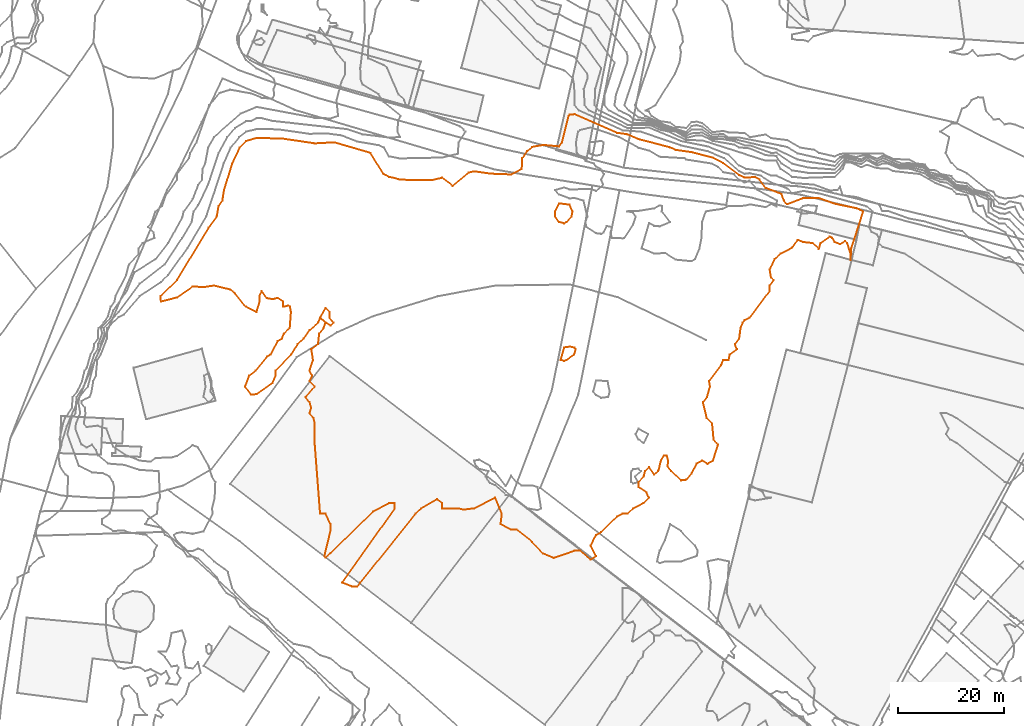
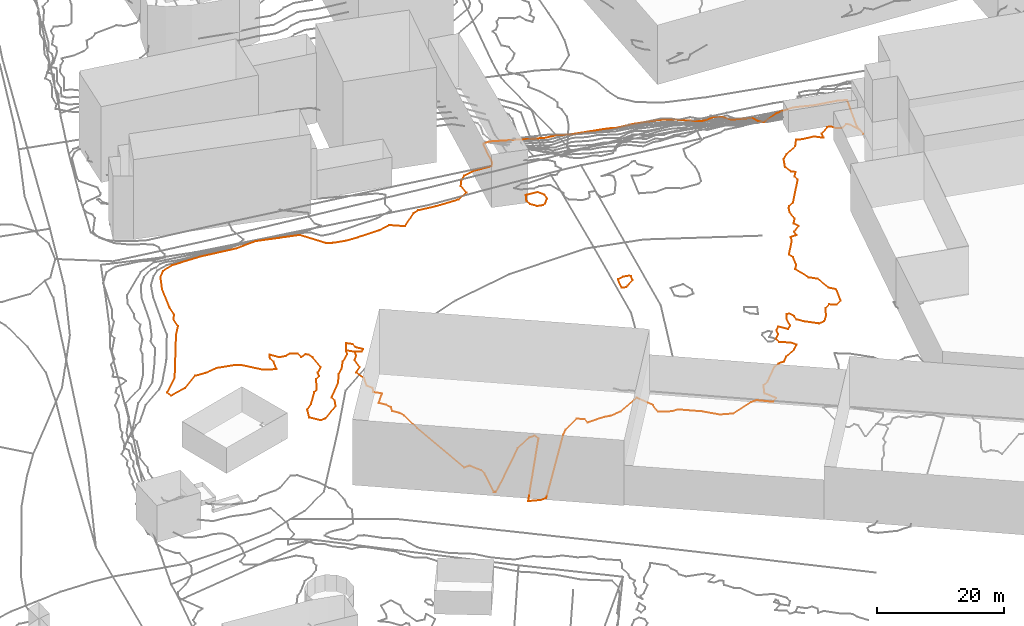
# Not in any storey, part 218 of 419: 4 proxies.
"""IFC2X3 model written with IfcOpenShell, lengths in metres."""

from ifc_helpers import new_model, entity, si_unit, frame, origin_with_axes, place, context, subcontext, project, element, save


model = new_model("IFC2X3")

# Units and contexts
model_context = context("Model", 3, precision=1e-05, world=origin_with_axes())
body_context = subcontext(model_context, "Body", "Model", "MODEL_VIEW")
ifc_project = project(units=[si_unit("AREAUNIT", "SQUARE_METRE"), si_unit("LENGTHUNIT", "METRE")], contexts=[model_context])

# Proxies
proxy_1_placement = place(None, frame((810.3419965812, 350.8976909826, 82.0), z_axis=(0.0, 0.0, 1.0), x_axis=(1.0, 0.0, 0.0)))
element("IfcBuildingElementProxy", 1, at=proxy_1_placement, Name="Contour 82.0 m", ObjectType="NOTDEFINED", context=body_context, shape_type="GeometricCurveSet", body=[
    entity("IfcGeometricCurveSet", [entity("IfcPolyline", [entity("IfcCartesianPoint", [2.2045945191, -2.0, 0.0]), entity("IfcCartesianPoint", [1.7500238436, -2.2631705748, 0.0]), entity("IfcCartesianPoint", [0.7500238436, -2.0000052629, 0.0]), entity("IfcCartesianPoint", [0.083357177, -1.0, 0.0]), entity("IfcCartesianPoint", [0.0, 0.0, 0.0]), entity("IfcCartesianPoint", [0.7500238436, 1.5000250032, 0.0]), entity("IfcCartesianPoint", [2.7500238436, 1.2500476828, 0.0]), entity("IfcCartesianPoint", [3.3333412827, 0.0, 0.0]), entity("IfcCartesianPoint", [3.1346482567, -1.0, 0.0]), entity("IfcCartesianPoint", [2.2045945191, -2.0, 0.0])])]),
])
proxy_2_placement = place(None, frame((766.0920537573, 330.8976909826, 81.0), z_axis=(0.0, 0.0, 1.0), x_axis=(1.0, 0.0, 0.0)))
element("IfcBuildingElementProxy", 2, at=proxy_2_placement, Name="Contour 81.0 m", ObjectType="NOTDEFINED", context=body_context, shape_type="GeometricCurveSet", body=[
    entity("IfcGeometricCurveSet", [entity("IfcPolyline", [entity("IfcCartesianPoint", [1.9999666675, -1.4999500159, 0.0]), entity("IfcCartesianPoint", [2.4999166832, -1.0, 0.0]), entity("IfcCartesianPoint", [1.7499189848, 0.0, 0.0]), entity("IfcCartesianPoint", [1.7499189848, 1.0, 0.0]), entity("IfcCartesianPoint", [0.9999666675, 1.7499523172, 0.0]), entity("IfcCartesianPoint", [0.0, 0.0, 0.0]), entity("IfcCartesianPoint", [0.9999666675, -0.999966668, 0.0]), entity("IfcCartesianPoint", [1.9999666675, -1.4999500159, 0.0])])]),
])
proxy_3_placement = place(None, frame((811.4253113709, 322.8976909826, 82.0), z_axis=(0.0, 0.0, 1.0), x_axis=(1.0, 0.0, 0.0)))
element("IfcBuildingElementProxy", 3, at=proxy_3_placement, Name="Contour 82.0 m", ObjectType="NOTDEFINED", context=body_context, shape_type="GeometricCurveSet", body=[
    entity("IfcGeometricCurveSet", [entity("IfcPolyline", [entity("IfcCartesianPoint", [1.1111440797, 0.0, 0.0]), entity("IfcCartesianPoint", [0.6667090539, -0.2105284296, 0.0]), entity("IfcCartesianPoint", [0.0, 0.0, 0.0]), entity("IfcCartesianPoint", [0.6667090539, 2.3334181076, 0.0]), entity("IfcCartesianPoint", [1.6667090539, 2.5000124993, 0.0]), entity("IfcCartesianPoint", [2.6667090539, 2.285667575, 0.0]), entity("IfcCartesianPoint", [2.8485083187, 2.0, 0.0]), entity("IfcCartesianPoint", [2.5416852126, 1.0, 0.0]), entity("IfcCartesianPoint", [1.1111440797, 0.0, 0.0])])]),
])
proxy_4_placement = place(None, frame((735.9809124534, 334.8976909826, 81.0), z_axis=(0.0, 0.0, 1.0), x_axis=(1.0, 0.0, 0.0)))
element("IfcBuildingElementProxy", 4, at=proxy_4_placement, Name="Contour 81.0 m", ObjectType="NOTDEFINED", context=body_context, shape_type="GeometricCurveSet", body=[
    entity("IfcGeometricCurveSet", [entity("IfcPolyline", [entity("IfcCartesianPoint", [37.6825521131, -54.0, 0.0]), entity("IfcCartesianPoint", [37.1111079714, -54.7058744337, 0.0]), entity("IfcCartesianPoint", [36.1111079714, -54.7241324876, 0.0]), entity("IfcCartesianPoint", [34.2539599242, -54.0, 0.0]), entity("IfcCartesianPoint", [44.1880445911, -40.0, 0.0]), entity("IfcCartesianPoint", [44.1111079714, -39.0000999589, 0.0]), entity("IfcCartesianPoint", [43.1111079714, -39.0000500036, 0.0]), entity("IfcCartesianPoint", [40.1111079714, -40.60003052, 0.0]), entity("IfcCartesianPoint", [32.1111079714, -48.39996948, 0.0]), entity("IfcCartesianPoint", [31.1111079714, -49.2500476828, 0.0]), entity("IfcCartesianPoint", [30.9110774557, -49.0, 0.0]), entity("IfcCartesianPoint", [32.1110746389, -44.0, 0.0]), entity("IfcCartesianPoint", [32.111057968, -43.0, 0.0]), entity("IfcCartesianPoint", [31.1111079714, -41.0000500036, 0.0]), entity("IfcCartesianPoint", [30.1110829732, -41.0, 0.0]), entity("IfcCartesianPoint", [29.1110829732, -28.0, 0.0]), entity("IfcCartesianPoint", [29.1110746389, -24.0, 0.0]), entity("IfcCartesianPoint", [28.8610602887, -23.0, 0.0]), entity("IfcCartesianPoint", [28.1110746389, -22.0, 0.0]), entity("IfcCartesianPoint", [28.4445260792, -21.0, 0.0]), entity("IfcCartesianPoint", [28.1110746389, -20.0, 0.0]), entity("IfcCartesianPoint", [27.3611556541, -19.0, 0.0]), entity("IfcCartesianPoint", [29.1110746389, -17.0, 0.0]), entity("IfcCartesianPoint", [28.1110829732, -16.0, 0.0]), entity("IfcCartesianPoint", [28.6110829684, -15.0, 0.0]), entity("IfcCartesianPoint", [28.1110829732, -14.0, 0.0]), entity("IfcCartesianPoint", [28.7778170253, -12.0, 0.0]), entity("IfcCartesianPoint", [28.4445260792, -10.0, 0.0]), entity("IfcCartesianPoint", [29.7111384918, -9.0, 0.0]), entity("IfcCartesianPoint", [29.9444201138, -7.0, 0.0]), entity("IfcCartesianPoint", [30.7776898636, -6.0, 0.0]), entity("IfcCartesianPoint", [31.1110829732, -5.0, 0.0]), entity("IfcCartesianPoint", [30.1111079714, -4.0000249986, 0.0]), entity("IfcCartesianPoint", [29.7474653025, -5.0, 0.0]), entity("IfcCartesianPoint", [28.1111079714, -6.4285558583, 0.0]), entity("IfcCartesianPoint", [27.0000156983, -8.0, 0.0]), entity("IfcCartesianPoint", [25.9005795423, -9.0, 0.0]), entity("IfcCartesianPoint", [24.649578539, -11.0, 0.0]), entity("IfcCartesianPoint", [21.7020217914, -14.0, 0.0]), entity("IfcCartesianPoint", [21.7111079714, -15.0, 0.0]), entity("IfcCartesianPoint", [21.1111079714, -16.333333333, 0.0]), entity("IfcCartesianPoint", [18.1111079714, -18.4615294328, 0.0]), entity("IfcCartesianPoint", [17.1111079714, -18.5714441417, 0.0]), entity("IfcCartesianPoint", [15.953221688, -17.0, 0.0]), entity("IfcCartesianPoint", [16.7361055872, -15.0, 0.0]), entity("IfcCartesianPoint", [17.9806760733, -14.0, 0.0]), entity("IfcCartesianPoint", [20.1111079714, -11.3636426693, 0.0]), entity("IfcCartesianPoint", [20.777774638, -11.0, 0.0]), entity("IfcCartesianPoint", [22.1111079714, -8.4706040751, 0.0]), entity("IfcCartesianPoint", [22.9111384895, -8.0, 0.0]), entity("IfcCartesianPoint", [23.2777675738, -7.0, 0.0]), entity("IfcCartesianPoint", [24.3838226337, -6.0, 0.0]), entity("IfcCartesianPoint", [24.611095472, -3.0, 0.0]), entity("IfcCartesianPoint", [24.4445260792, -2.0, 0.0]), entity("IfcCartesianPoint", [24.1111079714, -1.7499523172, 0.0]), entity("IfcCartesianPoint", [23.111057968, -2.0, 0.0]), entity("IfcCartesianPoint", [23.111057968, -1.0, 0.0]), entity("IfcCartesianPoint", [22.1111079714, -0.3334181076, 0.0]), entity("IfcCartesianPoint", [21.1111079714, -0.5714441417, 0.0]), entity("IfcCartesianPoint", [20.1111079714, -0.39996948, 0.0]), entity("IfcCartesianPoint", [19.1111079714, 0.9999833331, 0.0]), entity("IfcCartesianPoint", [18.649578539, 0.0, 0.0]), entity("IfcCartesianPoint", [18.6944254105, -1.0, 0.0]), entity("IfcCartesianPoint", [18.1110746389, -3.0, 0.0]), entity("IfcCartesianPoint", [16.1111079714, -2.0000199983, 0.0]), entity("IfcCartesianPoint", [14.1111079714, 0.4999749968, 0.0]), entity("IfcCartesianPoint", [13.1111079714, 1.2500476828, 0.0]), entity("IfcCartesianPoint", [10.1111079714, 1.9999888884, 0.0]), entity("IfcCartesianPoint", [8.1111079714, 1.7000076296, 0.0]), entity("IfcCartesianPoint", [6.1111079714, 1.8333121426, 0.0]), entity("IfcCartesianPoint", [3.1111079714, -0.2307647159, 0.0]), entity("IfcCartesianPoint", [0.1110080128, -1.0, 0.0]), entity("IfcCartesianPoint", [0.0, 0.0, 0.0]), entity("IfcCartesianPoint", [3.1111047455, 3.0, 0.0]), entity("IfcCartesianPoint", [9.1111079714, 12.9736789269, 0.0]), entity("IfcCartesianPoint", [10.6328434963, 15.0, 0.0]), entity("IfcCartesianPoint", [10.9493424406, 17.0, 0.0]), entity("IfcCartesianPoint", [11.6752145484, 18.0, 0.0]), entity("IfcCartesianPoint", [11.9904192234, 20.0, 0.0]), entity("IfcCartesianPoint", [13.5277781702, 25.0, 0.0]), entity("IfcCartesianPoint", [14.9559403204, 28.0, 0.0]), entity("IfcCartesianPoint", [16.1111079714, 29.2142886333, 0.0]), entity("IfcCartesianPoint", [18.1111079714, 29.839291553, 0.0]), entity("IfcCartesianPoint", [23.1111079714, 29.6842098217, 0.0]), entity("IfcCartesianPoint", [29.1111079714, 28.792451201, 0.0]), entity("IfcCartesianPoint", [32.777774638, 29.0, 0.0]), entity("IfcCartesianPoint", [39.6111129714, 27.0, 0.0]), entity("IfcCartesianPoint", [42.0710994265, 23.0, 0.0]), entity("IfcCartesianPoint", [43.1111079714, 22.5000041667, 0.0]), entity("IfcCartesianPoint", [45.1111079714, 22.0000045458, 0.0]), entity("IfcCartesianPoint", [47.1111079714, 21.8800048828, 0.0]), entity("IfcCartesianPoint", [51.1111079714, 21.875003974, 0.0]), entity("IfcCartesianPoint", [53.1111079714, 22.321416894, 0.0]), entity("IfcCartesianPoint", [55.1111079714, 20.8000101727, 0.0]), entity("IfcCartesianPoint", [58.1111079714, 23.2962983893, 0.0]), entity("IfcCartesianPoint", [59.1111079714, 23.5348911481, 0.0]), entity("IfcCartesianPoint", [62.1111079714, 23.0952406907, 0.0]), entity("IfcCartesianPoint", [66.1111079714, 22.9444526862, 0.0]), entity("IfcCartesianPoint", [68.1110913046, 24.0, 0.0]), entity("IfcCartesianPoint", [68.2222379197, 26.0, 0.0]), entity("IfcCartesianPoint", [69.1111079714, 27.3332909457, 0.0]), entity("IfcCartesianPoint", [70.1111079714, 28.1428882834, 0.0]), entity("IfcCartesianPoint", [72.1111079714, 28.5000050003, 0.0]), entity("IfcCartesianPoint", [75.1111079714, 28.2381021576, 0.0]), entity("IfcCartesianPoint", [75.6825365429, 29.0, 0.0]), entity("IfcCartesianPoint", [76.9682560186, 34.0, 0.0]), entity("IfcCartesianPoint", [77.1111079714, 34.2307647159, 0.0]), entity("IfcCartesianPoint", [78.1111079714, 34.2962945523, 0.0]), entity("IfcCartesianPoint", [86.1111079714, 30.7902077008, 0.0]), entity("IfcCartesianPoint", [88.1111079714, 30.4886382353, 0.0]), entity("IfcCartesianPoint", [90.1111079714, 29.5873013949, 0.0]), entity("IfcCartesianPoint", [96.1111079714, 28.0588213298, 0.0]), entity("IfcCartesianPoint", [97.1111079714, 27.5698909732, 0.0]), entity("IfcCartesianPoint", [100.1111079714, 27.1351364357, 0.0]), entity("IfcCartesianPoint", [104.1111079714, 26.1127829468, 0.0]), entity("IfcCartesianPoint", [106.1111079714, 25.0816342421, 0.0]), entity("IfcCartesianPoint", [109.1111079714, 22.8166663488, 0.0]), entity("IfcCartesianPoint", [110.1111079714, 22.3774827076, 0.0]), entity("IfcCartesianPoint", [112.1111079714, 22.4293787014, 0.0]), entity("IfcCartesianPoint", [112.9111063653, 22.0, 0.0]), entity("IfcCartesianPoint", [114.1111079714, 20.4084525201, 0.0]), entity("IfcCartesianPoint", [117.1111079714, 19.2571444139, 0.0]), entity("IfcCartesianPoint", [117.5253922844, 18.0, 0.0]), entity("IfcCartesianPoint", [118.1111079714, 17.3387067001, 0.0]), entity("IfcCartesianPoint", [121.1111079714, 18.4788686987, 0.0]), entity("IfcCartesianPoint", [124.1111079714, 18.5087738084, 0.0]), entity("IfcCartesianPoint", [127.1111079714, 17.4166686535, 0.0]), entity("IfcCartesianPoint", [131.1111079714, 16.5921055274, 0.0]), entity("IfcCartesianPoint", [132.4982043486, 16.0, 0.0]), entity("IfcCartesianPoint", [130.2222002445, 9.0, 0.0]), entity("IfcCartesianPoint", [130.1111079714, 6.8333121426, 0.0]), entity("IfcCartesianPoint", [130.111095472, 8.0, 0.0]), entity("IfcCartesianPoint", [129.4861020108, 10.0, 0.0]), entity("IfcCartesianPoint", [129.1111079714, 10.4285558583, 0.0]), entity("IfcCartesianPoint", [128.1111079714, 9.7999694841, 0.0]), entity("IfcCartesianPoint", [127.1111079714, 10.2000305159, 0.0]), entity("IfcCartesianPoint", [126.6666729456, 11.0, 0.0]), entity("IfcCartesianPoint", [126.1111079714, 11.200012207, 0.0]), entity("IfcCartesianPoint", [124.429286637, 10.0, 0.0]), entity("IfcCartesianPoint", [124.1111079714, 8.9166507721, 0.0]), entity("IfcCartesianPoint", [122.9444201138, 10.0, 0.0]), entity("IfcCartesianPoint", [121.1111079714, 10.20834128, 0.0]), entity("IfcCartesianPoint", [120.1111079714, 10.6250238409, 0.0]), entity("IfcCartesianPoint", [119.1111079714, 9.1249821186, 0.0]), entity("IfcCartesianPoint", [116.9110774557, 8.0, 0.0]), entity("IfcCartesianPoint", [115.7776898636, 7.0, 0.0]), entity("IfcCartesianPoint", [114.861131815, 5.0, 0.0]), entity("IfcCartesianPoint", [115.1111079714, 3.5000499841, 0.0]), entity("IfcCartesianPoint", [115.6111579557, 3.0, 0.0]), entity("IfcCartesianPoint", [114.8610602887, 2.0, 0.0]), entity("IfcCartesianPoint", [114.8610602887, 1.0, 0.0]), entity("IfcCartesianPoint", [111.1111222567, -4.0, 0.0]), entity("IfcCartesianPoint", [110.1111079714, -4.5000250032, 0.0]), entity("IfcCartesianPoint", [109.7778170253, -5.0, 0.0]), entity("IfcCartesianPoint", [109.3610841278, -6.0, 0.0]), entity("IfcCartesianPoint", [109.1111222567, -8.0, 0.0]), entity("IfcCartesianPoint", [108.3111384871, -9.0, 0.0]), entity("IfcCartesianPoint", [108.6666729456, -10.0, 0.0]), entity("IfcCartesianPoint", [107.3111384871, -11.0, 0.0]), entity("IfcCartesianPoint", [107.1111079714, -12.000033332, 0.0]), entity("IfcCartesianPoint", [106.1111079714, -12.0000500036, 0.0]), entity("IfcCartesianPoint", [105.7111384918, -13.0, 0.0]), entity("IfcCartesianPoint", [103.4445260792, -16.0, 0.0]), entity("IfcCartesianPoint", [103.6111246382, -17.0, 0.0]), entity("IfcCartesianPoint", [103.0341713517, -19.0, 0.0]), entity("IfcCartesianPoint", [102.277795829, -20.0, 0.0]), entity("IfcCartesianPoint", [103.0047187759, -23.0, 0.0]), entity("IfcCartesianPoint", [104.0058596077, -24.0, 0.0]), entity("IfcCartesianPoint", [104.2986049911, -27.0, 0.0]), entity("IfcCartesianPoint", [105.1111579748, -28.0, 0.0]), entity("IfcCartesianPoint", [104.161117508, -31.0, 0.0]), entity("IfcCartesianPoint", [103.1111079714, -31.5999999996, 0.0]), entity("IfcCartesianPoint", [102.1111079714, -31.0000058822, 0.0]), entity("IfcCartesianPoint", [101.1111079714, -31.5384705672, 0.0]), entity("IfcCartesianPoint", [100.1111079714, -33.4444350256, 0.0]), entity("IfcCartesianPoint", [99.1111079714, -34.6153755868, 0.0]), entity("IfcCartesianPoint", [98.1111079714, -34.7142960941, 0.0]), entity("IfcCartesianPoint", [96.301589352, -33.0, 0.0]), entity("IfcCartesianPoint", [95.6110913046, -32.0, 0.0]), entity("IfcCartesianPoint", [95.736113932, -31.0, 0.0]), entity("IfcCartesianPoint", [95.4445260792, -30.0, 0.0]), entity("IfcCartesianPoint", [94.9444201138, -30.0, 0.0]), entity("IfcCartesianPoint", [94.3418726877, -31.0, 0.0]), entity("IfcCartesianPoint", [93.8610602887, -33.0, 0.0]), entity("IfcCartesianPoint", [93.1111079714, -33.60003052, 0.0]), entity("IfcCartesianPoint", [92.1111079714, -32.2500476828, 0.0]), entity("IfcCartesianPoint", [91.3611556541, -33.0, 0.0]), entity("IfcCartesianPoint", [91.1111079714, -34.0000999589, 0.0]), entity("IfcCartesianPoint", [90.11120793, -35.0, 0.0]), entity("IfcCartesianPoint", [90.1111579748, -36.0, 0.0]), entity("IfcCartesianPoint", [91.6111329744, -37.0, 0.0]), entity("IfcCartesianPoint", [92.1111079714, -38.0000999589, 0.0]), entity("IfcCartesianPoint", [91.1111079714, -39.0000999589, 0.0]), entity("IfcCartesianPoint", [89.11120793, -40.0, 0.0]), entity("IfcCartesianPoint", [88.1111079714, -41.0000999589, 0.0]), entity("IfcCartesianPoint", [87.1111079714, -41.0000999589, 0.0]), entity("IfcCartesianPoint", [86.1111079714, -41.5000499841, 0.0]), entity("IfcCartesianPoint", [83.1111079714, -44.5000499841, 0.0]), entity("IfcCartesianPoint", [82.1111079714, -45.0000999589, 0.0]), entity("IfcCartesianPoint", [81.1111579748, -47.0, 0.0]), entity("IfcCartesianPoint", [82.1111079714, -49.0000500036, 0.0]), entity("IfcCartesianPoint", [81.1111079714, -49.6665818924, 0.0]), entity("IfcCartesianPoint", [79.1111079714, -48.000033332, 0.0]), entity("IfcCartesianPoint", [78.1111079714, -48.000033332, 0.0]), entity("IfcCartesianPoint", [74.1111079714, -49.3334181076, 0.0]), entity("IfcCartesianPoint", [72.1111079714, -48.5000499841, 0.0]), entity("IfcCartesianPoint", [70.1111079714, -46.3334181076, 0.0]), entity("IfcCartesianPoint", [67.1111079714, -44.0000500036, 0.0]), entity("IfcCartesianPoint", [66.1111079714, -44.000033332, 0.0]), entity("IfcCartesianPoint", [64.1111079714, -43.0000500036, 0.0]), entity("IfcCartesianPoint", [64.3611556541, -41.0, 0.0]), entity("IfcCartesianPoint", [63.1111079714, -38.0000999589, 0.0]), entity("IfcCartesianPoint", [59.1111079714, -40.0000166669, 0.0]), entity("IfcCartesianPoint", [57.1111079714, -40.2500476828, 0.0]), entity("IfcCartesianPoint", [56.1111079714, -40.000033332, 0.0]), entity("IfcCartesianPoint", [53.1111079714, -40.000033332, 0.0]), entity("IfcCartesianPoint", [53.1110746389, -39.0, 0.0]), entity("IfcCartesianPoint", [52.1111079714, -38.2500476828, 0.0]), entity("IfcCartesianPoint", [49.1111079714, -40.0000199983, 0.0]), entity("IfcCartesianPoint", [48.1111079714, -41.0000142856, 0.0]), entity("IfcCartesianPoint", [37.6825521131, -54.0, 0.0])])]),
])

save(model, "model.ifc")
